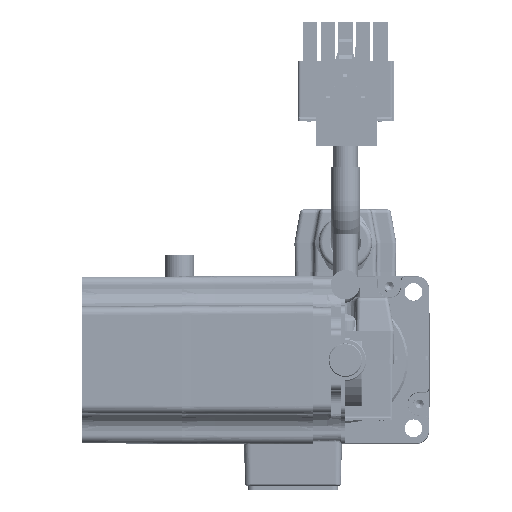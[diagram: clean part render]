
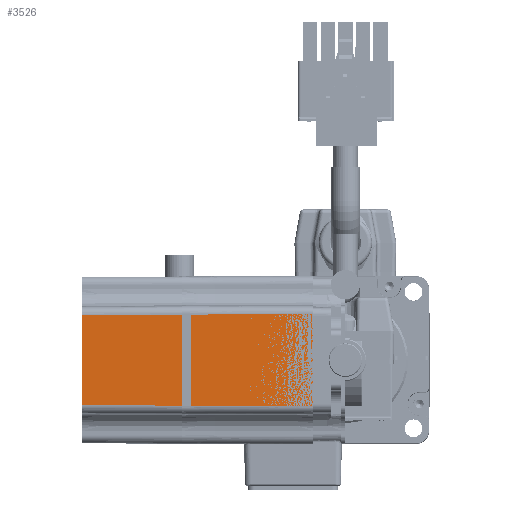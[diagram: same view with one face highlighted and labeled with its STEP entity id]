
A CAD part, front view. The second image highlights one B-rep face of the part: STEP entity #3526.
In plain terms, the highlighted planar face has unit normal (-0.004, -1, 0).
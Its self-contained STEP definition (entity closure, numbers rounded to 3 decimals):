
#3526 = ADVANCED_FACE( '', ( #7604 ), #7605, .T. );
#7604 = FACE_OUTER_BOUND( '', #15225, .T. );
#7605 = PLANE( '', #15226 );
#15225 = EDGE_LOOP( '', ( #27675, #27676, #27677, #27678 ) );
#15226 = AXIS2_PLACEMENT_3D( '', #27679, #27680, #27681 );
#27675 = ORIENTED_EDGE( '', *, *, #37127, .T. );
#27676 = ORIENTED_EDGE( '', *, *, #36932, .T. );
#27677 = ORIENTED_EDGE( '', *, *, #37128, .T. );
#27678 = ORIENTED_EDGE( '', *, *, #36826, .T. );
#27679 = CARTESIAN_POINT( '', ( -7., -20.1, 0. ) );
#27680 = DIRECTION( '', ( -0.004, -1., 0. ) );
#27681 = DIRECTION( '', ( 1., -0.004, 0. ) );
#36826 = EDGE_CURVE( '', #45966, #45964, #45967, .T. );
#36932 = EDGE_CURVE( '', #46096, #46094, #46097, .T. );
#37127 = EDGE_CURVE( '', #45964, #46096, #46323, .T. );
#37128 = EDGE_CURVE( '', #46094, #45966, #46324, .T. );
#45964 = VERTEX_POINT( '', #70378 );
#45966 = VERTEX_POINT( '', #70380 );
#45967 = LINE( '', #70381, #70382 );
#46094 = VERTEX_POINT( '', #70659 );
#46096 = VERTEX_POINT( '', #70661 );
#46097 = LINE( '', #70662, #70663 );
#46323 = LINE( '', #71250, #71251 );
#46324 = LINE( '', #71252, #71253 );
#70378 = CARTESIAN_POINT( '', ( -62.75, -19.857, -10.757 ) );
#70380 = CARTESIAN_POINT( '', ( -62.75, -19.857, 10.757 ) );
#70381 = CARTESIAN_POINT( '', ( -62.75, -19.857, 0. ) );
#70382 = VECTOR( '', #79257, 1000. );
#70659 = CARTESIAN_POINT( '', ( -7.75, -20.097, 10.997 ) );
#70661 = CARTESIAN_POINT( '', ( -7.75, -20.097, -10.997 ) );
#70662 = CARTESIAN_POINT( '', ( -7.75, -20.097, 0. ) );
#70663 = VECTOR( '', #79382, 1000. );
#71250 = CARTESIAN_POINT( '', ( -6.991, -20.1, -11. ) );
#71251 = VECTOR( '', #79565, 1000. );
#71252 = CARTESIAN_POINT( '', ( -63.491, -19.854, 10.754 ) );
#71253 = VECTOR( '', #79566, 1000. );
#79257 = DIRECTION( '', ( 0., 0., -1. ) );
#79382 = DIRECTION( '', ( 0., 0., 1. ) );
#79565 = DIRECTION( '', ( 1., -0.004, -0.004 ) );
#79566 = DIRECTION( '', ( -1., 0.004, -0.004 ) );
